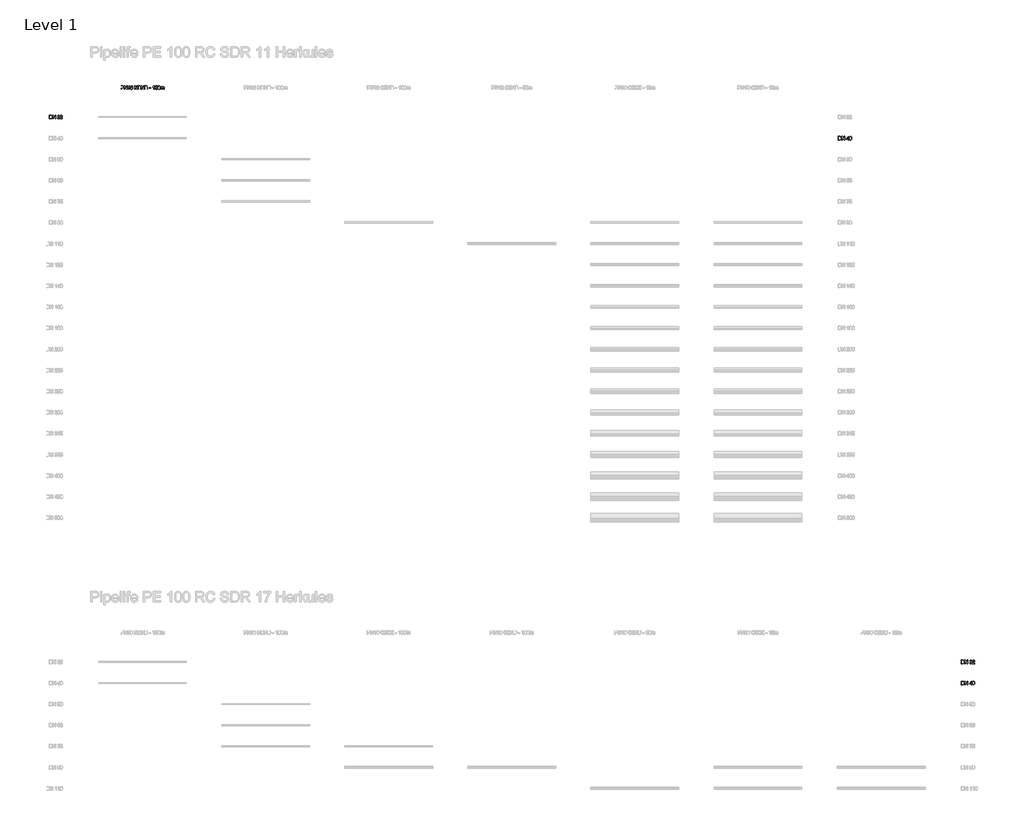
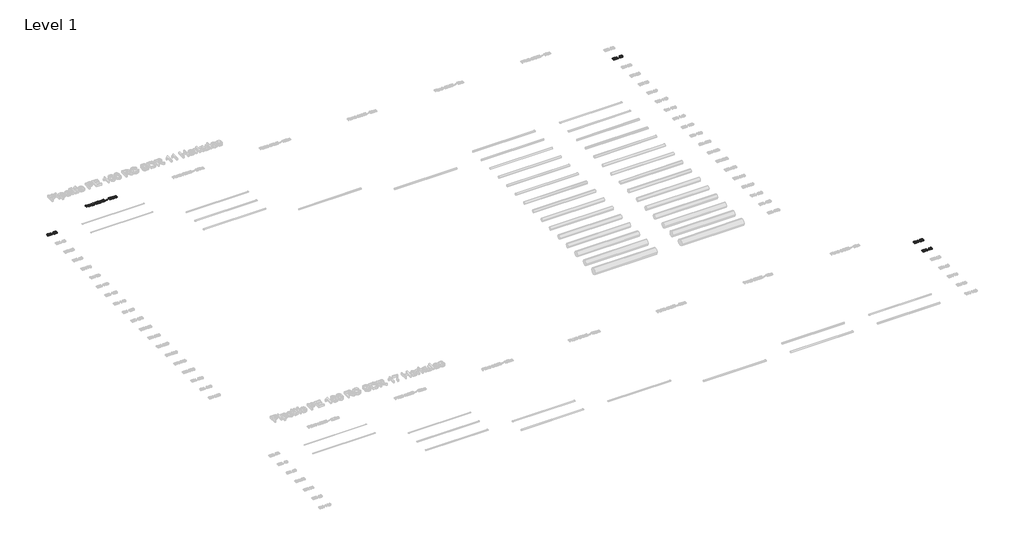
# One storey, part 14 of 17: 5 proxies.
"""IFC4 building model written with IfcOpenShell, lengths in millimetres."""

from ifc_helpers import new_model, si_unit, origin, origin_with_axes, place, context, project, spatial, polyline, outline, extrude, element, save

model = new_model("IFC4")

# Units and contexts
model_context = context("Model", 3, world=origin())
ifc_project = project(units=[si_unit("LENGTHUNIT", "METRE", prefix="MILLI")], contexts=[model_context])

# Site, building, storey
site = spatial("IfcSite", under=ifc_project)
building = spatial("IfcBuilding", under=site)
storey = spatial("IfcBuildingStorey", under=building, Name="Level 1", Elevation=0.0)

# Proxies
placement = place(None, origin())
element("IfcBuildingElementProxy", 1, Name="200mm Arial", ObjectType="200mm Arial", at=placement, inside=storey, context=model_context, shape_type="SweptSolid", body=[
    extrude(outline(polyline([(-19337.4878779, 486.050427), (-19337.4878779, 686.9630473), (-19268.17891, 686.9630473), (-19232.3226782, 684.0690423), (-19216.3075487, 678.4894987), (-19202.7940167, 669.697119), (-19188.90034, 654.393228), (-19179.0043144, 635.3614662), (-19173.0814143, 612.9697154), (-19171.1071142, 587.5858577), (-19176.4536659, 547.0452618), (-19190.187927, 517.7863805), (-19208.5329759, 499.563959), (-19232.5434074, 489.4839923), (-19264.8434466, 486.050427), (-19337.4878779, 486.050427)]), holes=[polyline([(-19312.3738004, 511.1645046), (-19267.9336553, 511.1645046), (-19235.6090907, 514.7942736), (-19216.9697363, 525.0459185), (-19208.2448016, 535.9168315), (-19201.6903707, 549.9883178), (-19197.5884865, 567.3216911), (-19196.2211917, 587.9782652), (-19198.9005989, 615.3486856), (-19206.9388205, 635.5576699), (-19218.8152776, 649.4390838), (-19233.0093913, 657.8267933), (-19268.6203684, 661.8489698), (-19312.3738004, 661.8489698), (-19312.3738004, 511.1645046)])]), origin_with_axes(), (0.0, 0.0, 1.0), 50.0),
    extrude(outline(polyline([(-19136.5752576, 486.050427), (-19136.5752576, 686.9630473), (-19109.6953465, 686.9630473), (-19004.7263505, 527.7927708), (-19004.7263505, 686.9630473), (-18979.612273, 686.9630473), (-18979.612273, 486.050427), (-19006.4921841, 486.050427), (-19111.4611801, 645.2697546), (-19111.4611801, 486.050427), (-19136.5752576, 486.050427)])), origin_with_axes(), (0.0, 0.0, 1.0), 50.0),
    extrude(outline(polyline([(-18866.5989241, 539.4178418), (-18841.4848465, 542.5571015), (-18835.8623834, 526.7749639), (-18827.627958, 516.1186488), (-18816.3769004, 510.0485959), (-18801.7045401, 508.0252449), (-18784.4876627, 510.8088853), (-18771.19486, 519.1598066), (-18762.6967859, 531.6187435), (-18759.8640945, 546.7264308), (-18762.6722604, 561.0676972), (-18771.0967581, 572.6988996), (-18783.8500006, 580.4060274), (-18799.6444009, 582.97507), (-18817.2536858, 580.2282178), (-18814.4577826, 605.3422953), (-18810.4356061, 605.0479898), (-18795.3892325, 606.8506115), (-18781.9370142, 612.2584769), (-18772.4456588, 621.4064758), (-18769.2818736, 634.4294984), (-18771.5750047, 645.2758859), (-18778.454398, 654.074397), (-18788.9512976, 659.9053266), (-18802.0969476, 661.8489698), (-18815.267123, 659.8869325), (-18826.0338027, 654.0008206), (-18833.8942147, 644.190634), (-18838.3455868, 630.4563729), (-18863.4596644, 633.5956326), (-18856.0652363, 656.1467989), (-18842.9073236, 672.9835315), (-18824.9056313, 683.4681684), (-18802.9798644, 686.9630473), (-18787.1915954, 685.2401333), (-18772.6909134, 680.0713913), (-18760.4649685, 671.9166737), (-18751.5009105, 661.2358331), (-18746.0010747, 648.9301804), (-18744.1677961, 635.9010264), (-18745.9091042, 623.7609206), (-18751.1330285, 612.7489862), (-18759.7659927, 603.3679953), (-18771.7344202, 596.12072), (-18756.0135963, 589.7686242), (-18744.3639998, 578.9528936), (-18737.1535127, 564.2621392), (-18734.750017, 546.2849724), (-18739.5570084, 521.808557), (-18753.9779826, 501.354318), (-18775.744334, 487.521955), (-18802.5874569, 482.9111674), (-18826.8676686, 486.8475047), (-18846.6351945, 498.6565167), (-18860.3817184, 516.7195227), (-18866.5989241, 539.4178418)])), origin_with_axes(), (0.0, 0.0, 1.0), 50.0),
    extrude(outline(polyline([(-18584.0655518, 511.1645046), (-18584.0655518, 486.050427), (-18715.9144588, 486.050427), (-18713.2166575, 503.3654063), (-18697.9618175, 530.0245882), (-18666.5201696, 559.1363168), (-18623.1591451, 600.9767623), (-18615.028953, 615.3977366), (-18612.318889, 629.4263033), (-18614.8756689, 642.0017362), (-18622.5460085, 652.4557162), (-18634.3366264, 659.5006564), (-18649.2542413, 661.8489698), (-18664.9198829, 659.5558387), (-18677.0906456, 652.6764454), (-18684.9449262, 641.7503501), (-18687.6611216, 627.3171132), (-18712.7751992, 630.4563729), (-18706.6867521, 654.7488473), (-18693.5227081, 672.4930222), (-18673.96978, 683.3455411), (-18648.7146811, 686.9630473), (-18623.2756411, 682.9408709), (-18603.7595012, 670.8743414), (-18591.3434839, 652.8481237), (-18587.2048115, 630.9468822), (-18591.6684463, 607.1326544), (-18606.5063535, 582.5090862), (-18642.4852126, 548.0998569), (-18671.376212, 523.9422725), (-18682.7069774, 511.1645046), (-18584.0655518, 511.1645046)])), origin_with_axes(), (0.0, 0.0, 1.0), 50.0),
])
element("IfcBuildingElementProxy", 2, Name="200mm Arial", ObjectType="200mm Arial", at=placement, inside=storey, context=model_context, shape_type="SweptSolid", body=[
    extrude(outline(polyline([(-15255.4087753, 2161.9491293), (-15255.4087753, 2362.8617496), (-15180.9494595, 2362.8617496), (-15150.9302887, 2360.9487633), (-15126.5274497, 2351.5555097), (-15117.6553622, 2343.2291138), (-15110.7085239, 2332.1313403), (-15106.2203635, 2319.0408726), (-15104.7243101, 2304.7363944), (-15108.7648807, 2281.0570566), (-15120.8865924, 2261.326319), (-15130.5940786, 2253.5578775), (-15143.5542547, 2248.0089907), (-15179.2326769, 2243.5698813), (-15230.2946978, 2243.5698813), (-15230.2946978, 2161.9491293), (-15255.4087753, 2161.9491293)]), holes=[polyline([(-15230.2946978, 2268.6839589), (-15177.7611489, 2268.6839589), (-15155.4920254, 2270.9893527), (-15140.7767456, 2277.9055342), (-15132.5729771, 2289.0033077), (-15129.8383876, 2303.8534776), (-15131.450937, 2315.1351921), (-15136.2885853, 2324.6510731), (-15143.7504584, 2331.8125092), (-15153.2356825, 2336.0308895), (-15178.3497601, 2337.7476721), (-15230.2946978, 2337.7476721), (-15230.2946978, 2268.6839589)])]), origin_with_axes(), (0.0, 0.0, 1.0), 50.0),
    extrude(outline(polyline([(-15070.1924535, 2161.9491293), (-15070.1924535, 2362.8617496), (-15043.3125424, 2362.8617496), (-14938.3435464, 2203.6914731), (-14938.3435464, 2362.8617496), (-14913.2294689, 2362.8617496), (-14913.2294689, 2161.9491293), (-14940.10938, 2161.9491293), (-15045.0783759, 2321.1684569), (-15045.0783759, 2161.9491293), (-15070.1924535, 2161.9491293)])), origin_with_axes(), (0.0, 0.0, 1.0), 50.0),
    extrude(outline(polyline([(-14784.5198215, 2161.9491293), (-14809.633899, 2161.9491293), (-14809.633899, 2318.5197065), (-14833.4236014, 2301.5726092), (-14859.8620541, 2288.8929431), (-14859.8620541, 2312.6335946), (-14823.0493291, 2336.1289913), (-14809.5787167, 2349.7038369), (-14800.7066293, 2362.8617496), (-14784.5198215, 2362.8617496), (-14784.5198215, 2161.9491293)])), origin_with_axes(), (0.0, 0.0, 1.0), 50.0),
    extrude(outline(polyline([(-14596.16424, 2309.4943349), (-14621.2783175, 2306.3550752), (-14630.7941984, 2327.2998234), (-14642.1862776, 2335.1357099), (-14655.9573269, 2337.7476721), (-14678.6188578, 2331.6653565), (-14688.055031, 2322.057505), (-14695.7621588, 2308.8321473), (-14700.967689, 2290.1253478), (-14702.8990695, 2264.0731712), (-14692.8252342, 2275.8270009), (-14680.7525734, 2284.1104772), (-14667.3555374, 2289.0217018), (-14653.3085765, 2290.6587767), (-14630.1074854, 2286.1828791), (-14610.6342651, 2272.7551863), (-14597.4273015, 2252.2396337), (-14593.0249803, 2226.5001568), (-14595.0973822, 2208.5168586), (-14601.3145879, 2191.8456728), (-14611.1615626, 2177.7067415), (-14624.1232716, 2167.3202065), (-14639.6111036, 2160.9374539), (-14657.0364474, 2158.8098696), (-14685.528908, 2164.4507269), (-14708.2210957, 2181.3732987), (-14716.8801182, 2194.4821604), (-14723.0651342, 2211.2453167), (-14728.013147, 2255.7345126), (-14722.5194426, 2305.7542013), (-14715.652312, 2324.8319484), (-14706.0383292, 2339.9549641), (-14695.6180717, 2349.9766828), (-14683.5362138, 2357.1350532), (-14654.3876971, 2362.8617496), (-14632.3515656, 2359.3178198), (-14614.7054925, 2348.6860301), (-14602.3446575, 2331.8002465), (-14596.16424, 2309.4943349)]), holes=[polyline([(-14702.8990695, 2226.8925642), (-14697.086534, 2205.1384756), (-14681.6354902, 2189.3440752), (-14658.9984847, 2183.9239472), (-14642.4254009, 2186.7321131), (-14629.3962469, 2195.1566108), (-14620.9533551, 2208.4003626), (-14618.1390578, 2225.6662909), (-14620.9165669, 2242.2393748), (-14629.2490941, 2254.8761213), (-14642.4989773, 2262.8775547), (-14660.0285543, 2265.5446992), (-14676.5771127, 2262.8775547), (-14690.4156071, 2254.8761213), (-14699.7782039, 2242.5459431), (-14702.8990695, 2226.8925642)])]), origin_with_axes(), (0.0, 0.0, 1.0), 50.0),
    extrude(outline(polyline([(-14483.150891, 2161.9491293), (-14483.150891, 2362.8617496), (-14456.2709799, 2362.8617496), (-14351.301984, 2203.6914731), (-14351.301984, 2362.8617496), (-14326.1879064, 2362.8617496), (-14326.1879064, 2161.9491293), (-14353.0678175, 2161.9491293), (-14458.0368135, 2321.1684569), (-14458.0368135, 2161.9491293), (-14483.150891, 2161.9491293)])), origin_with_axes(), (0.0, 0.0, 1.0), 50.0),
    extrude(outline(polyline([(-14282.2382707, 2161.9491293), (-14282.2382707, 2362.8617496), (-14205.5716629, 2362.8617496), (-14184.4858933, 2361.3840903), (-14168.023174, 2356.9511123), (-14155.4048215, 2349.4524509), (-14145.8521524, 2338.7777417), (-14139.8372818, 2326.2207029), (-14137.8323249, 2313.075053), (-14139.5184507, 2300.9778667), (-14144.5768281, 2289.6041817), (-14153.0442454, 2279.6529737), (-14164.9574907, 2271.8232186), (-14150.7265888, 2264.3920023), (-14140.2112951, 2253.0857623), (-14133.7181779, 2238.6525253), (-14131.5538055, 2221.8403182), (-14137.4644429, 2194.8377797), (-14152.1061463, 2175.6098141), (-14173.9583368, 2165.4072201), (-14206.1602741, 2161.9491293), (-14282.2382707, 2161.9491293)]), holes=[polyline([(-14257.1241932, 2187.0632069), (-14205.6207139, 2187.0632069), (-14186.9813595, 2188.0442255), (-14171.2114846, 2193.5134045), (-14160.7636359, 2204.6724917), (-14156.6678831, 2221.5950635), (-14161.4748745, 2241.1173347), (-14167.7717879, 2248.1745376), (-14177.0485456, 2252.7669312), (-14208.0732605, 2256.1269201), (-14257.1241932, 2256.1269201), (-14257.1241932, 2187.0632069)]), polyline([(-14257.1241932, 2281.2409976), (-14211.2615711, 2281.2409976), (-14184.4797619, 2283.3992387), (-14168.3665305, 2292.6943904), (-14162.9464024, 2309.0528765), (-14167.9986485, 2325.435888), (-14182.4686737, 2335.1234472), (-14214.7441874, 2337.7476721), (-14257.1241932, 2337.7476721), (-14257.1241932, 2281.2409976)])]), origin_with_axes(), (0.0, 0.0, 1.0), 50.0),
    extrude(outline(polyline([(-14097.0219489, 2161.9491293), (-14097.0219489, 2362.8617496), (-14070.1420378, 2362.8617496), (-13965.1730418, 2203.6914731), (-13965.1730418, 2362.8617496), (-13940.0589643, 2362.8617496), (-13940.0589643, 2161.9491293), (-13966.9388754, 2161.9491293), (-14071.9078714, 2321.1684569), (-14071.9078714, 2161.9491293), (-14097.0219489, 2161.9491293)])), origin_with_axes(), (0.0, 0.0, 1.0), 50.0),
    extrude(outline(polyline([(-13896.1093286, 2161.9491293), (-13896.1093286, 2362.8617496), (-13819.4427208, 2362.8617496), (-13798.3569511, 2361.3840903), (-13781.8942318, 2356.9511123), (-13769.2758794, 2349.4524509), (-13759.7232103, 2338.7777417), (-13753.7083396, 2326.2207029), (-13751.7033828, 2313.075053), (-13753.3895086, 2300.9778667), (-13758.447886, 2289.6041817), (-13766.9153033, 2279.6529737), (-13778.8285485, 2271.8232186), (-13764.5976467, 2264.3920023), (-13754.082353, 2253.0857623), (-13747.5892358, 2238.6525253), (-13745.4248634, 2221.8403182), (-13751.3355008, 2194.8377797), (-13765.9772042, 2175.6098141), (-13787.8293947, 2165.4072201), (-13820.031332, 2161.9491293), (-13896.1093286, 2161.9491293)]), holes=[polyline([(-13870.9952511, 2187.0632069), (-13819.4917717, 2187.0632069), (-13800.8524173, 2188.0442255), (-13785.0825425, 2193.5134045), (-13774.6346938, 2204.6724917), (-13770.5389409, 2221.5950635), (-13775.3459323, 2241.1173347), (-13781.6428458, 2248.1745376), (-13790.9196035, 2252.7669312), (-13821.9443184, 2256.1269201), (-13870.9952511, 2256.1269201), (-13870.9952511, 2187.0632069)]), polyline([(-13870.9952511, 2281.2409976), (-13825.132629, 2281.2409976), (-13798.3508198, 2283.3992387), (-13782.2375884, 2292.6943904), (-13776.8174603, 2309.0528765), (-13781.8697064, 2325.435888), (-13796.3397315, 2335.1234472), (-13828.6152452, 2337.7476721), (-13870.9952511, 2337.7476721), (-13870.9952511, 2281.2409976)])]), origin_with_axes(), (0.0, 0.0, 1.0), 50.0),
    extrude(outline(polyline([(-13648.1078129, 2221.5950635), (-13648.1078129, 2246.709141), (-13569.6263206, 2246.709141), (-13569.6263206, 2221.5950635), (-13648.1078129, 2221.5950635)])), origin_with_axes(), (0.0, 0.0, 1.0), 50.0),
    extrude(outline(polyline([(-13374.9922197, 2161.9491293), (-13400.1062972, 2161.9491293), (-13400.1062972, 2318.5197065), (-13423.8959996, 2301.5726092), (-13450.3344523, 2288.8929431), (-13450.3344523, 2312.6335946), (-13413.5217273, 2336.1289913), (-13400.0511149, 2349.7038369), (-13391.1790275, 2362.8617496), (-13374.9922197, 2362.8617496), (-13374.9922197, 2161.9491293)])), origin_with_axes(), (0.0, 0.0, 1.0), 50.0),
    extrude(outline(polyline([(-13315.3462856, 2215.3165441), (-13290.232208, 2218.4558038), (-13285.6214203, 2203.3787734), (-13277.5770674, 2192.5814368), (-13266.1359373, 2186.0883196), (-13251.3348184, 2183.9239472), (-13233.3331261, 2186.9344482), (-13219.8441196, 2195.9659512), (-13211.4196219, 2209.9761238), (-13208.611456, 2227.9226338), (-13211.2418123, 2244.8206801), (-13219.1328811, 2257.7456009), (-13232.3459761, 2265.9493694), (-13250.9424109, 2268.6839589), (-13272.9908052, 2264.3184259), (-13287.0929483, 2252.9876604), (-13312.2070259, 2256.1269201), (-13290.232208, 2359.7224899), (-13192.9151576, 2359.7224899), (-13192.9151576, 2334.6084124), (-13269.9251219, 2334.6084124), (-13280.6672761, 2279.2789603), (-13262.7268975, 2290.1682674), (-13243.9281276, 2293.7980364), (-13220.4633876, 2289.2976133), (-13200.984036, 2275.7963441), (-13187.8690429, 2255.2194779), (-13183.4973785, 2229.4922637), (-13187.4337158, 2204.3781861), (-13199.2427279, 2182.8938776), (-13209.6783138, 2172.3571241), (-13221.8552078, 2164.8308716), (-13235.77341, 2160.3151201), (-13251.4329203, 2158.8098696), (-13276.099408, 2162.678762), (-13295.7504379, 2174.2854389), (-13309.2210503, 2192.2809998), (-13315.3462856, 2215.3165441)])), origin_with_axes(), (0.0, 0.0, 1.0), 50.0),
    extrude(outline(polyline([(-13161.5225606, 2260.7867587), (-13159.6770193, 2292.9457765), (-13154.1403953, 2318.5932829), (-13144.9678709, 2338.1216855), (-13132.2146284, 2351.9233917), (-13115.7886973, 2360.1271601), (-13095.5981071, 2362.8617496), (-13080.1225378, 2361.2430689), (-13066.2656494, 2356.3870265), (-13054.6773665, 2348.483695), (-13046.0076142, 2337.7231466), (-13034.2353903, 2307.9982814), (-13029.6736536, 2260.7867587), (-13031.5008008, 2228.811682), (-13036.9822425, 2203.2254892), (-13046.0995847, 2183.6786925), (-13058.8344331, 2169.821804), (-13075.2971523, 2161.5628532), (-13095.5981071, 2158.8098696), (-13121.6932033, 2163.5923356), (-13141.5097801, 2177.9397334), (-13150.2653716, 2193.0688805), (-13156.5193655, 2211.919767), (-13161.5225606, 2260.7867587)]), holes=[polyline([(-13136.4084831, 2260.8358096), (-13133.4654271, 2221.3314147), (-13124.6362593, 2198.4675487), (-13111.4906093, 2187.5598476), (-13095.5981071, 2183.9239472), (-13079.7056049, 2187.5721103), (-13066.5599549, 2198.5165997), (-13057.7307871, 2221.3927284), (-13054.7877311, 2260.8358096), (-13057.6326852, 2299.4511564), (-13066.1675475, 2322.492832), (-13079.288672, 2333.9339621), (-13095.8924127, 2337.7476721), (-13111.6132366, 2334.3876832), (-13124.2438518, 2324.3077165), (-13133.3673253, 2299.8313011), (-13136.4084831, 2260.8358096)])]), origin_with_axes(), (0.0, 0.0, 1.0), 50.0),
    extrude(outline(polyline([(-13001.4203163, 2161.9491293), (-13001.4203163, 2309.4943349), (-12976.3062388, 2309.4943349), (-12976.3062388, 2285.2141232), (-12968.7523952, 2296.367079), (-12959.0403105, 2305.1042764), (-12947.5010786, 2310.751265), (-12934.4657932, 2312.6335946), (-12920.4985401, 2310.7144768), (-12909.3026647, 2304.9571236), (-12900.9394807, 2295.7416796), (-12895.4703017, 2283.4482896), (-12886.3161714, 2296.2168605), (-12875.8744541, 2305.3372683), (-12864.1451498, 2310.809513), (-12851.1282586, 2312.6335946), (-12832.2497809, 2309.5985681), (-12818.2886591, 2300.4934887), (-12809.6618264, 2285.0731018), (-12806.7862154, 2263.0921525), (-12806.7862154, 2161.9491293), (-12831.900293, 2161.9491293), (-12831.900293, 2252.3009474), (-12834.2302123, 2273.2702211), (-12842.6669727, 2283.5954424), (-12857.0143705, 2287.519517), (-12870.619873, 2285.0056567), (-12881.7115151, 2277.4640758), (-12889.0875491, 2264.3797395), (-12891.5462271, 2245.237613), (-12891.5462271, 2161.9491293), (-12916.6603046, 2161.9491293), (-12916.6603046, 2255.0968505), (-12918.1134385, 2269.2970955), (-12922.4728402, 2279.4261131), (-12930.1431798, 2285.4961661), (-12941.5291275, 2287.519517), (-12960.119431, 2282.1239144), (-12967.4770709, 2275.4775131), (-12972.480266, 2266.3295141), (-12976.3062388, 2236.3593942), (-12976.3062388, 2161.9491293), (-13001.4203163, 2161.9491293)])), origin_with_axes(), (0.0, 0.0, 1.0), 50.0),
])
element("IfcBuildingElementProxy", 3, Name="200mm Arial", ObjectType="200mm Arial", at=placement, inside=storey, context=model_context, shape_type="SweptSolid", body=[
    extrude(outline(polyline([(25539.3076926, -713.949573), (25539.3076926, -513.0369527), (25608.6166605, -513.0369527), (25644.4728923, -515.9309577), (25660.4880218, -521.5105013), (25674.0015538, -530.302881), (25687.8952305, -545.606772), (25697.7912562, -564.6385338), (25703.7141563, -587.0302846), (25705.6884563, -612.4141423), (25700.3419047, -652.9547382), (25686.6076435, -682.2136195), (25668.2625947, -700.436041), (25644.2521631, -710.5160077), (25611.9521239, -713.949573), (25539.3076926, -713.949573)]), holes=[polyline([(25564.4217702, -688.8354954), (25608.8619152, -688.8354954), (25641.1864798, -685.2057264), (25659.8258342, -674.9540815), (25668.5507689, -664.0831685), (25675.1051998, -650.0116822), (25679.207084, -632.6783089), (25680.5743788, -612.0217348), (25677.8949716, -584.6513144), (25669.85675, -564.4423301), (25657.9802929, -550.5609162), (25643.7861793, -542.1732067), (25608.1752021, -538.1510302), (25564.4217702, -538.1510302), (25564.4217702, -688.8354954)])]), origin_with_axes(), (0.0, 0.0, 1.0), 50.0),
    extrude(outline(polyline([(25740.2203129, -713.949573), (25740.2203129, -513.0369527), (25767.100224, -513.0369527), (25872.06922, -672.2072292), (25872.06922, -513.0369527), (25897.1832975, -513.0369527), (25897.1832975, -713.949573), (25870.3033864, -713.949573), (25765.3343905, -554.7302454), (25765.3343905, -713.949573), (25740.2203129, -713.949573)])), origin_with_axes(), (0.0, 0.0, 1.0), 50.0),
    extrude(outline(polyline([(26091.8173985, -713.949573), (26091.8173985, -666.8606776), (26000.7788674, -666.8606776), (26000.7788674, -641.7466), (26098.0959178, -516.1762123), (26116.931476, -516.1762123), (26116.931476, -641.7466), (26142.0455535, -641.7466), (26142.0455535, -666.8606776), (26116.931476, -666.8606776), (26116.931476, -713.949573), (26091.8173985, -713.949573)]), holes=[polyline([(26091.8173985, -641.7466), (26091.8173985, -564.1480245), (26031.680955, -641.7466), (26091.8173985, -641.7466)])]), origin_with_axes(), (0.0, 0.0, 1.0), 50.0),
    extrude(outline(polyline([(26164.0203714, -615.1119436), (26165.8659127, -582.9529258), (26171.4025367, -557.3054194), (26180.5750612, -537.7770168), (26193.3283037, -523.9753106), (26209.7542347, -515.7715422), (26229.9448249, -513.0369527), (26245.4203942, -514.6556334), (26259.2772827, -519.5116758), (26270.8655655, -527.4150073), (26279.5353179, -538.1755557), (26291.3075417, -567.9004209), (26295.8692784, -615.1119436), (26294.0421312, -647.0870203), (26288.5606895, -672.6732131), (26279.4433474, -692.2200098), (26266.708499, -706.0768983), (26250.2457797, -714.335849), (26229.9448249, -717.0888326), (26203.8497287, -712.3063667), (26184.0331519, -697.9589689), (26175.2775604, -682.8298218), (26169.0235665, -663.9789353), (26164.0203714, -615.1119436)]), holes=[polyline([(26189.1344489, -615.0628927), (26192.0775049, -654.5672876), (26200.9066728, -677.4311536), (26214.0523227, -688.3388547), (26229.9448249, -691.9747551), (26245.8373271, -688.326592), (26258.9829771, -677.3821026), (26267.8121449, -654.5059739), (26270.7552009, -615.0628927), (26267.9102468, -576.4475459), (26259.3753845, -553.4058703), (26246.25426, -541.9647402), (26229.6505193, -538.1510302), (26213.9296954, -541.5110191), (26201.2990802, -551.5909857), (26192.1756067, -576.0674012), (26189.1344489, -615.0628927)])]), origin_with_axes(), (0.0, 0.0, 1.0), 50.0),
])
element("IfcBuildingElementProxy", 4, Name="200mm Arial", ObjectType="200mm Arial", at=placement, inside=storey, context=model_context, shape_type="SweptSolid", body=[
    extrude(outline(polyline([(32539.3076926, -30513.949573), (32539.3076926, -30313.0369527), (32608.6166605, -30313.0369527), (32644.4728923, -30315.9309577), (32660.4880218, -30321.5105013), (32674.0015538, -30330.302881), (32687.8952305, -30345.606772), (32697.7912562, -30364.6385338), (32703.7141563, -30387.0302846), (32705.6884563, -30412.4141423), (32700.3419047, -30452.9547382), (32686.6076435, -30482.2136195), (32668.2625947, -30500.436041), (32644.2521631, -30510.5160077), (32611.9521239, -30513.949573), (32539.3076926, -30513.949573)]), holes=[polyline([(32564.4217702, -30488.8354954), (32608.8619152, -30488.8354954), (32641.1864798, -30485.2057264), (32659.8258342, -30474.9540815), (32668.5507689, -30464.0831685), (32675.1051998, -30450.0116822), (32679.207084, -30432.6783089), (32680.5743788, -30412.0217348), (32677.8949716, -30384.6513144), (32669.85675, -30364.4423301), (32657.9802929, -30350.5609162), (32643.7861793, -30342.1732067), (32608.1752021, -30338.1510302), (32564.4217702, -30338.1510302), (32564.4217702, -30488.8354954)])]), origin_with_axes(), (0.0, 0.0, 1.0), 50.0),
    extrude(outline(polyline([(32740.2203129, -30513.949573), (32740.2203129, -30313.0369527), (32767.100224, -30313.0369527), (32872.06922, -30472.2072292), (32872.06922, -30313.0369527), (32897.1832975, -30313.0369527), (32897.1832975, -30513.949573), (32870.3033864, -30513.949573), (32765.3343905, -30354.7302454), (32765.3343905, -30513.949573), (32740.2203129, -30513.949573)])), origin_with_axes(), (0.0, 0.0, 1.0), 50.0),
    extrude(outline(polyline([(33010.1966465, -30460.5821582), (33035.310724, -30457.4428985), (33040.9331872, -30473.2250361), (33049.1676125, -30483.8813512), (33060.4186702, -30489.9514041), (33075.0910304, -30491.9747551), (33092.3079078, -30489.1911147), (33105.6007105, -30480.8401934), (33114.0987846, -30468.3812565), (33116.931476, -30453.2735692), (33114.1233101, -30438.9323028), (33105.6988124, -30427.3011004), (33092.9455699, -30419.5939726), (33077.1511696, -30417.02493), (33059.5418847, -30419.7717822), (33062.3377879, -30394.6577047), (33066.3599644, -30394.9520102), (33081.406338, -30393.1493885), (33094.8585563, -30387.7415231), (33104.3499118, -30378.5935242), (33107.5136969, -30365.5705016), (33105.2205658, -30354.7241141), (33098.3411725, -30345.925603), (33087.8442729, -30340.0946734), (33074.6986229, -30338.1510302), (33061.5284475, -30340.1130675), (33050.7617678, -30345.9991794), (33042.9013558, -30355.809366), (33038.4499837, -30369.5436271), (33013.3359061, -30366.4043674), (33020.7303343, -30343.8532011), (33033.8882469, -30327.0164685), (33051.8899392, -30316.5318316), (33073.8157062, -30313.0369527), (33089.6039751, -30314.7598667), (33104.1046571, -30319.9286087), (33116.3306021, -30328.0833263), (33125.29466, -30338.7641669), (33130.7944958, -30351.0698196), (33132.6277745, -30364.0989736), (33130.8864663, -30376.2390794), (33125.662542, -30387.2510138), (33117.0295779, -30396.6320047), (33105.0611503, -30403.87928), (33120.7819742, -30410.2313758), (33132.4315707, -30421.0471064), (33139.6420578, -30435.7378608), (33142.0455535, -30453.7150276), (33137.2385621, -30478.191443), (33122.8175879, -30498.645682), (33101.0512365, -30512.478045), (33074.2081136, -30517.0888326), (33049.9279019, -30513.1524953), (33030.1603761, -30501.3434833), (33016.4138522, -30483.2804773), (33010.1966465, -30460.5821582)])), origin_with_axes(), (0.0, 0.0, 1.0), 50.0),
    extrude(outline(polyline([(33292.7300188, -30488.8354954), (33292.7300188, -30513.949573), (33160.8811117, -30513.949573), (33163.578913, -30496.6345937), (33178.833753, -30469.9754118), (33210.2754009, -30440.8636832), (33253.6364254, -30399.0232377), (33261.7666175, -30384.6022634), (33264.4766815, -30370.5736967), (33261.9199017, -30357.9982638), (33254.2495621, -30347.5442838), (33242.4589441, -30340.4993436), (33227.5413292, -30338.1510302), (33211.8756876, -30340.4441613), (33199.7049249, -30347.3235546), (33191.8506443, -30358.2496499), (33189.1344489, -30372.6828868), (33164.0203714, -30369.5436271), (33170.1088184, -30345.2511527), (33183.2728625, -30327.5069778), (33202.8257905, -30316.6544589), (33228.0808895, -30313.0369527), (33253.5199294, -30317.0591291), (33273.0360693, -30329.1256586), (33285.4520866, -30347.1518763), (33289.5907591, -30369.0531178), (33285.1271242, -30392.8673456), (33270.289217, -30417.4909138), (33234.3103579, -30451.9001431), (33205.4193586, -30476.0577275), (33194.0885931, -30488.8354954), (33292.7300188, -30488.8354954)])), origin_with_axes(), (0.0, 0.0, 1.0), 50.0),
])
element("IfcBuildingElementProxy", 5, Name="200mm Arial", ObjectType="200mm Arial", at=placement, inside=storey, context=model_context, shape_type="SweptSolid", body=[
    extrude(outline(polyline([(32539.3076926, -31713.949573), (32539.3076926, -31513.0369527), (32608.6166605, -31513.0369527), (32644.4728923, -31515.9309577), (32660.4880218, -31521.5105013), (32674.0015538, -31530.302881), (32687.8952305, -31545.606772), (32697.7912562, -31564.6385338), (32703.7141563, -31587.0302846), (32705.6884563, -31612.4141423), (32700.3419047, -31652.9547382), (32686.6076435, -31682.2136195), (32668.2625947, -31700.436041), (32644.2521631, -31710.5160077), (32611.9521239, -31713.949573), (32539.3076926, -31713.949573)]), holes=[polyline([(32564.4217702, -31688.8354954), (32608.8619152, -31688.8354954), (32641.1864798, -31685.2057264), (32659.8258342, -31674.9540815), (32668.5507689, -31664.0831685), (32675.1051998, -31650.0116822), (32679.207084, -31632.6783089), (32680.5743788, -31612.0217348), (32677.8949716, -31584.6513144), (32669.85675, -31564.4423301), (32657.9802929, -31550.5609162), (32643.7861793, -31542.1732067), (32608.1752021, -31538.1510302), (32564.4217702, -31538.1510302), (32564.4217702, -31688.8354954)])]), origin_with_axes(), (0.0, 0.0, 1.0), 50.0),
    extrude(outline(polyline([(32740.2203129, -31713.949573), (32740.2203129, -31513.0369527), (32767.100224, -31513.0369527), (32872.06922, -31672.2072292), (32872.06922, -31513.0369527), (32897.1832975, -31513.0369527), (32897.1832975, -31713.949573), (32870.3033864, -31713.949573), (32765.3343905, -31554.7302454), (32765.3343905, -31713.949573), (32740.2203129, -31713.949573)])), origin_with_axes(), (0.0, 0.0, 1.0), 50.0),
    extrude(outline(polyline([(33091.8173985, -31713.949573), (33091.8173985, -31666.8606776), (33000.7788674, -31666.8606776), (33000.7788674, -31641.7466), (33098.0959178, -31516.1762123), (33116.931476, -31516.1762123), (33116.931476, -31641.7466), (33142.0455535, -31641.7466), (33142.0455535, -31666.8606776), (33116.931476, -31666.8606776), (33116.931476, -31713.949573), (33091.8173985, -31713.949573)]), holes=[polyline([(33091.8173985, -31641.7466), (33091.8173985, -31564.1480245), (33031.680955, -31641.7466), (33091.8173985, -31641.7466)])]), origin_with_axes(), (0.0, 0.0, 1.0), 50.0),
    extrude(outline(polyline([(33164.0203714, -31615.1119436), (33165.8659127, -31582.9529258), (33171.4025367, -31557.3054194), (33180.5750612, -31537.7770168), (33193.3283037, -31523.9753106), (33209.7542347, -31515.7715422), (33229.9448249, -31513.0369527), (33245.4203942, -31514.6556334), (33259.2772827, -31519.5116758), (33270.8655655, -31527.4150073), (33279.5353179, -31538.1755557), (33291.3075417, -31567.9004209), (33295.8692784, -31615.1119436), (33294.0421312, -31647.0870203), (33288.5606895, -31672.6732131), (33279.4433474, -31692.2200098), (33266.708499, -31706.0768983), (33250.2457797, -31714.335849), (33229.9448249, -31717.0888326), (33203.8497287, -31712.3063667), (33184.0331519, -31697.9589689), (33175.2775604, -31682.8298218), (33169.0235665, -31663.9789353), (33164.0203714, -31615.1119436)]), holes=[polyline([(33189.1344489, -31615.0628927), (33192.0775049, -31654.5672876), (33200.9066728, -31677.4311536), (33214.0523227, -31688.3388547), (33229.9448249, -31691.9747551), (33245.8373271, -31688.326592), (33258.9829771, -31677.3821026), (33267.8121449, -31654.5059739), (33270.7552009, -31615.0628927), (33267.9102468, -31576.4475459), (33259.3753845, -31553.4058703), (33246.25426, -31541.9647402), (33229.6505193, -31538.1510302), (33213.9296954, -31541.5110191), (33201.2990802, -31551.5909857), (33192.1756067, -31576.0674012), (33189.1344489, -31615.0628927)])]), origin_with_axes(), (0.0, 0.0, 1.0), 50.0),
])

save(model, "model.ifc")
